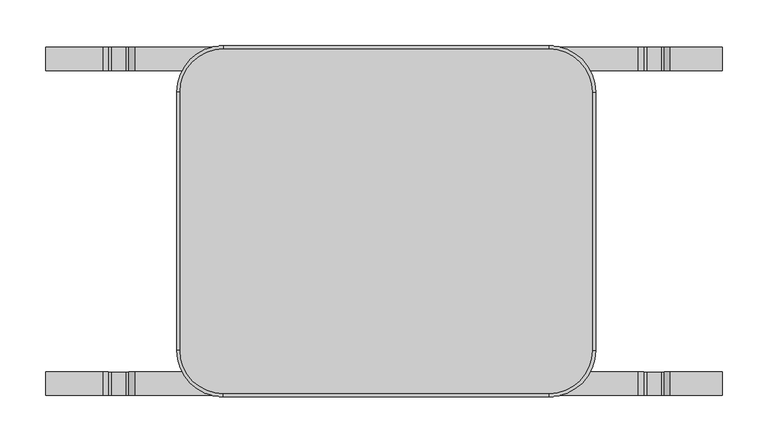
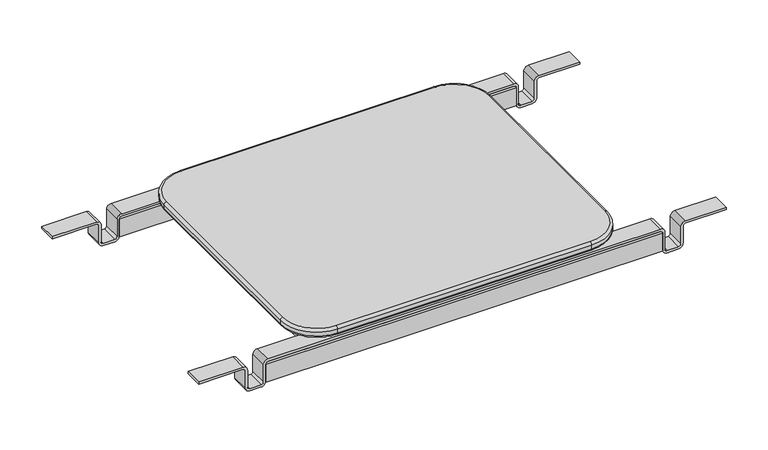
"""IFC4 building model written with IfcOpenShell, lengths in millimetres: furniture geometry, Stance_HC-Spry-Linking_Bracket : SPLT18."""

from ifc_helpers import new_model, si_unit, point, frame, frame_2d, origin, place, context, project, spatial, polyline, circle_curve, ellipse_curve, trimmed, segment, composite_curve, outline, extrude, source, transform, mapped, element, save
from ifc_brep_helpers import plane_surface, cylinder_surface, revolved_surface, advanced_brep


def furniture_fa3b0a36(model_context):
    return source(origin(), model_context, "Body", "SolidModel", [
        extrude(outline(polyline([(28.0190545, -164.7825), (2.6190545, -164.7825), (2.6190545, 164.7825), (28.0190545, 164.7825), (28.0190545, -164.7825)])), frame((0.0, 0.0, 353.1938169), z_axis=(0.0, 0.0, 1.0), x_axis=(1.0, 0.0, 0.0)), (0.0, 0.0, 1.0), 25.4),
        extrude(outline(polyline([(414.5429788, -164.7825), (389.1429788, -164.7825), (389.1429788, 164.7825), (414.5429788, 164.7825), (414.5429788, -164.7825)])), frame((0.0, 0.0, 353.1938169), z_axis=(0.0, 0.0, 1.0), x_axis=(1.0, 0.0, 0.0)), (0.0, 0.0, 1.0), 25.4),
        advanced_brep(
        [(437.1810167, 140.9523441, 386.8898412), (386.3810167, 191.7523441, 386.8898412), (386.3810167, 188.5773441, 390.0648412), (434.0060167, 140.9523441, 390.0648412), (437.1810167, 140.9523441, 381.2510412), (386.3810167, 191.7523441, 381.2510412), (434.0060167, 140.9523441, 378.0760412), (386.3810167, 188.5773441, 378.0760412), (434.0060167, -140.9523441, 390.0648412), (437.1810167, -140.9523441, 386.8898412), (437.1810167, -140.9523441, 381.2510412), (434.0060167, -140.9523441, 378.0760412), (386.3810167, -188.5773441, 390.0648412), (386.3810167, -191.7523441, 386.8898412), (386.3810167, -191.7523441, 381.2510412), (386.3810167, -188.5773441, 378.0760412), (30.7810167, -188.5773441, 390.0648412), (30.7810167, -191.7523441, 386.8898412), (30.7810167, -191.7523441, 381.2510412), (30.7810167, -188.5773441, 378.0760412), (-16.8439833, -140.9523441, 390.0648412), (-20.0189833, -140.9523441, 386.8898412), (-20.0189833, -140.9523441, 381.2510412), (-16.8439833, -140.9523441, 378.0760412), (-16.8439833, 140.9523441, 390.0648412), (-20.0189833, 140.9523441, 386.8898412), (-20.0189833, 140.9523441, 381.2510412), (-16.8439833, 140.9523441, 378.0760412), (30.7810167, 188.5773441, 390.0648412), (30.7810167, 191.7523441, 386.8898412), (30.7810167, 191.7523441, 381.2510412), (30.7810167, 188.5773441, 378.0760412)],
        [
            (0, 1, circle_curve(frame((386.3810167, 140.9523441, 386.8898412), z_axis=(0.0, 0.0, 1.0), x_axis=(0.0, 1.0, 0.0)), 50.8)),
            (1, 2, circle_curve(frame((386.3810167, 188.5773441, 386.8898412), z_axis=(1.0, 0.0, 0.0), x_axis=(0.0, 1.0, 0.0)), 3.175)),
            (2, 3, circle_curve(frame((386.3810167, 140.9523441, 390.0648412), z_axis=(0.0, 0.0, -1.0), x_axis=(0.0, 1.0, 0.0)), 47.625)),
            (3, 0, circle_curve(frame((434.0060167, 140.9523441, 386.8898412), z_axis=(0.0, 1.0, 0.0), x_axis=(1.0, 0.0, 0.0)), 3.175)),
            (0, 4),
            (4, 5, circle_curve(frame((386.3810167, 140.9523441, 381.2510412), z_axis=(0.0, 0.0, 1.0), x_axis=(0.0, 1.0, 0.0)), 50.8)),
            (5, 1),
            (4, 6, circle_curve(frame((434.0060167, 140.9523441, 381.2510412), z_axis=(0.0, 1.0, 0.0), x_axis=(1.0, 0.0, 0.0)), 3.175)),
            (6, 7, circle_curve(frame((386.3810167, 140.9523441, 378.0760412), z_axis=(0.0, 0.0, 1.0), x_axis=(0.0, 1.0, 0.0)), 47.625)),
            (7, 5, circle_curve(frame((386.3810167, 188.5773441, 381.2510412), z_axis=(1.0, 0.0, 0.0), x_axis=(0.0, 1.0, 0.0)), 3.175)),
            (3, 8),
            (8, 9, circle_curve(frame((434.0060167, -140.9523441, 386.8898412), z_axis=(0.0, 1.0, 0.0), x_axis=(1.0, 0.0, 0.0)), 3.175)),
            (9, 0),
            (9, 10),
            (10, 4),
            (10, 11, circle_curve(frame((434.0060167, -140.9523441, 381.2510412), z_axis=(0.0, 1.0, 0.0), x_axis=(1.0, 0.0, 0.0)), 3.175)),
            (11, 6),
            (8, 12, circle_curve(frame((386.3810167, -140.9523441, 390.0648412), z_axis=(0.0, 0.0, -1.0), x_axis=(1.0, 0.0, 0.0)), 47.625)),
            (12, 13, circle_curve(frame((386.3810167, -188.5773441, 386.8898412), z_axis=(1.0, 0.0, 0.0), x_axis=(0.0, -1.0, 0.0)), 3.175)),
            (13, 9, circle_curve(frame((386.3810167, -140.9523441, 386.8898412), z_axis=(0.0, 0.0, 1.0), x_axis=(1.0, 0.0, 0.0)), 50.8)),
            (13, 14),
            (14, 10, circle_curve(frame((386.3810167, -140.9523441, 381.2510412), z_axis=(0.0, 0.0, 1.0), x_axis=(1.0, 0.0, 0.0)), 50.8)),
            (14, 15, circle_curve(frame((386.3810167, -188.5773441, 381.2510412), z_axis=(1.0, 0.0, 0.0), x_axis=(0.0, -1.0, 0.0)), 3.175)),
            (15, 11, circle_curve(frame((386.3810167, -140.9523441, 378.0760412), z_axis=(0.0, 0.0, 1.0), x_axis=(1.0, 0.0, 0.0)), 47.625)),
            (12, 16),
            (16, 17, circle_curve(frame((30.7810167, -188.5773441, 386.8898412), z_axis=(1.0, 0.0, 0.0), x_axis=(0.0, -1.0, 0.0)), 3.175)),
            (17, 13),
            (17, 18),
            (18, 14),
            (18, 19, circle_curve(frame((30.7810167, -188.5773441, 381.2510412), z_axis=(1.0, 0.0, 0.0), x_axis=(0.0, -1.0, 0.0)), 3.175)),
            (19, 15),
            (16, 20, circle_curve(frame((30.7810167, -140.9523441, 390.0648412), z_axis=(0.0, 0.0, -1.0), x_axis=(0.0, -1.0, 0.0)), 47.625)),
            (20, 21, circle_curve(frame((-16.8439833, -140.9523441, 386.8898412), z_axis=(0.0, -1.0, 0.0), x_axis=(-1.0, 0.0, 0.0)), 3.175)),
            (21, 17, circle_curve(frame((30.7810167, -140.9523441, 386.8898412), z_axis=(0.0, 0.0, 1.0), x_axis=(0.0, -1.0, 0.0)), 50.8)),
            (21, 22),
            (22, 18, circle_curve(frame((30.7810167, -140.9523441, 381.2510412), z_axis=(0.0, 0.0, 1.0), x_axis=(0.0, -1.0, 0.0)), 50.8)),
            (22, 23, circle_curve(frame((-16.8439833, -140.9523441, 381.2510412), z_axis=(0.0, -1.0, 0.0), x_axis=(-1.0, 0.0, 0.0)), 3.175)),
            (23, 19, circle_curve(frame((30.7810167, -140.9523441, 378.0760412), z_axis=(0.0, 0.0, 1.0), x_axis=(0.0, -1.0, 0.0)), 47.625)),
            (20, 24),
            (24, 25, circle_curve(frame((-16.8439833, 140.9523441, 386.8898412), z_axis=(0.0, -1.0, 0.0), x_axis=(-1.0, 0.0, 0.0)), 3.175)),
            (25, 21),
            (25, 26),
            (26, 22),
            (26, 27, circle_curve(frame((-16.8439833, 140.9523441, 381.2510412), z_axis=(0.0, -1.0, 0.0), x_axis=(-1.0, 0.0, 0.0)), 3.175)),
            (27, 23),
            (24, 28, circle_curve(frame((30.7810167, 140.9523441, 390.0648412), z_axis=(0.0, 0.0, -1.0), x_axis=(-1.0, 0.0, 0.0)), 47.625)),
            (28, 29, circle_curve(frame((30.7810167, 188.5773441, 386.8898412), z_axis=(-1.0, 0.0, 0.0), x_axis=(0.0, 1.0, 0.0)), 3.175)),
            (29, 25, circle_curve(frame((30.7810167, 140.9523441, 386.8898412), z_axis=(0.0, 0.0, 1.0), x_axis=(-1.0, 0.0, 0.0)), 50.8)),
            (29, 30),
            (30, 26, circle_curve(frame((30.7810167, 140.9523441, 381.2510412), z_axis=(0.0, 0.0, 1.0), x_axis=(-1.0, 0.0, 0.0)), 50.8)),
            (30, 31, circle_curve(frame((30.7810167, 188.5773441, 381.2510412), z_axis=(-1.0, 0.0, 0.0), x_axis=(0.0, 1.0, 0.0)), 3.175)),
            (31, 27, circle_curve(frame((30.7810167, 140.9523441, 378.0760412), z_axis=(0.0, 0.0, 1.0), x_axis=(-1.0, 0.0, 0.0)), 47.625)),
            (1, 29),
            (28, 2),
            (5, 30),
            (7, 31),
        ],
        [
            revolved_surface(trimmed(ellipse_curve(frame((386.3810167, 188.5773441, 386.8898412), z_axis=(-1.0, 0.0, 0.0), x_axis=(0.0, 1.0, 0.0)), 3.175, 3.175), [point((386.3810167, 188.5773441, 390.0648412))], [point((386.3810167, 191.7523441, 386.8898412))], True, "CARTESIAN"), (386.3810167, 140.9523441, 0.0), (0.0, 0.0, -1.0)),
            cylinder_surface(frame((386.3810167, 140.9523441, 0.0), z_axis=(0.0, 0.0, -1.0), x_axis=(0.0, 1.0, 0.0)), 50.8),
            revolved_surface(trimmed(ellipse_curve(frame((386.3810167, 188.5773441, 381.2510412), z_axis=(-1.0, 0.0, 0.0), x_axis=(0.0, 1.0, 0.0)), 3.175, 3.175), [point((386.3810167, 191.7523441, 381.2510412))], [point((386.3810167, 188.5773441, 378.0760412))], True, "CARTESIAN"), (386.3810167, 140.9523441, 0.0), (0.0, 0.0, -1.0)),
            cylinder_surface(frame((434.0060167, 140.9523441, 386.8898412), z_axis=(0.0, 1.0, 0.0), x_axis=(1.0, 0.0, 0.0)), 3.175),
            plane_surface(frame((437.1810167, 140.9523441, 386.8898412), z_axis=(1.0, 0.0, 0.0), x_axis=(0.0, -1.0, 0.0))),
            cylinder_surface(frame((434.0060167, 140.9523441, 381.2510412), z_axis=(0.0, 1.0, 0.0), x_axis=(1.0, 0.0, 0.0)), 3.175),
            revolved_surface(trimmed(ellipse_curve(frame((434.0060167, -140.9523441, 386.8898412), z_axis=(0.0, 1.0, 0.0), x_axis=(1.0, 0.0, 0.0)), 3.175, 3.175), [point((434.0060167, -140.9523441, 390.0648412))], [point((437.1810167, -140.9523441, 386.8898412))], True, "CARTESIAN"), (386.3810167, -140.9523441, 0.0), (0.0, 0.0, -1.0)),
            cylinder_surface(frame((386.3810167, -140.9523441, 0.0), z_axis=(0.0, 0.0, -1.0), x_axis=(1.0, 0.0, 0.0)), 50.8),
            revolved_surface(trimmed(ellipse_curve(frame((434.0060167, -140.9523441, 381.2510412), z_axis=(0.0, 1.0, 0.0), x_axis=(1.0, 0.0, 0.0)), 3.175, 3.175), [point((437.1810167, -140.9523441, 381.2510412))], [point((434.0060167, -140.9523441, 378.0760412))], True, "CARTESIAN"), (386.3810167, -140.9523441, 0.0), (0.0, 0.0, -1.0)),
            cylinder_surface(frame((386.3810167, -188.5773441, 386.8898412), z_axis=(1.0, 0.0, 0.0), x_axis=(0.0, -1.0, 0.0)), 3.175),
            plane_surface(frame((386.3810167, -191.7523441, 386.8898412), z_axis=(0.0, -1.0, 0.0), x_axis=(-1.0, 0.0, 0.0))),
            cylinder_surface(frame((386.3810167, -188.5773441, 381.2510412), z_axis=(1.0, 0.0, 0.0), x_axis=(0.0, -1.0, 0.0)), 3.175),
            revolved_surface(trimmed(ellipse_curve(frame((30.7810167, -188.5773441, 386.8898412), z_axis=(1.0, 0.0, 0.0), x_axis=(0.0, -1.0, 0.0)), 3.175, 3.175), [point((30.7810167, -188.5773441, 390.0648412))], [point((30.7810167, -191.7523441, 386.8898412))], True, "CARTESIAN"), (30.7810167, -140.9523441, 0.0), (0.0, 0.0, -1.0)),
            cylinder_surface(frame((30.7810167, -140.9523441, 0.0), z_axis=(0.0, 0.0, -1.0), x_axis=(0.0, -1.0, 0.0)), 50.8),
            revolved_surface(trimmed(ellipse_curve(frame((30.7810167, -188.5773441, 381.2510412), z_axis=(1.0, 0.0, 0.0), x_axis=(0.0, -1.0, 0.0)), 3.175, 3.175), [point((30.7810167, -191.7523441, 381.2510412))], [point((30.7810167, -188.5773441, 378.0760412))], True, "CARTESIAN"), (30.7810167, -140.9523441, 0.0), (0.0, 0.0, -1.0)),
            cylinder_surface(frame((-16.8439833, -140.9523441, 386.8898412), z_axis=(0.0, -1.0, 0.0), x_axis=(-1.0, 0.0, 0.0)), 3.175),
            plane_surface(frame((-20.0189833, -140.9523441, 386.8898412), z_axis=(-1.0, 0.0, 0.0), x_axis=(0.0, 1.0, 0.0))),
            cylinder_surface(frame((-16.8439833, -140.9523441, 381.2510412), z_axis=(0.0, -1.0, 0.0), x_axis=(-1.0, 0.0, 0.0)), 3.175),
            revolved_surface(trimmed(ellipse_curve(frame((-16.8439833, 140.9523441, 386.8898412), z_axis=(0.0, -1.0, 0.0), x_axis=(-1.0, 0.0, 0.0)), 3.175, 3.175), [point((-16.8439833, 140.9523441, 390.0648412))], [point((-20.0189833, 140.9523441, 386.8898412))], True, "CARTESIAN"), (30.7810167, 140.9523441, 0.0), (0.0, 0.0, -1.0)),
            cylinder_surface(frame((30.7810167, 140.9523441, 0.0), z_axis=(0.0, 0.0, -1.0), x_axis=(-1.0, 0.0, 0.0)), 50.8),
            revolved_surface(trimmed(ellipse_curve(frame((-16.8439833, 140.9523441, 381.2510412), z_axis=(0.0, -1.0, 0.0), x_axis=(-1.0, 0.0, 0.0)), 3.175, 3.175), [point((-20.0189833, 140.9523441, 381.2510412))], [point((-16.8439833, 140.9523441, 378.0760412))], True, "CARTESIAN"), (30.7810167, 140.9523441, 0.0), (0.0, 0.0, -1.0)),
            cylinder_surface(frame((30.7810167, 188.5773441, 386.8898412), z_axis=(-1.0, 0.0, 0.0), x_axis=(0.0, 1.0, 0.0)), 3.175),
            plane_surface(frame((30.7810167, 191.7523441, 386.8898412), z_axis=(0.0, 1.0, 0.0), x_axis=(1.0, 0.0, 0.0))),
            cylinder_surface(frame((30.7810167, 188.5773441, 381.2510412), z_axis=(-1.0, 0.0, 0.0), x_axis=(0.0, 1.0, 0.0)), 3.175),
            plane_surface(frame((-16.8439833, -140.9523441, 390.0648412), z_axis=(0.0, 0.0, 1.0), x_axis=(0.0, -1.0, 0.0))),
            plane_surface(frame((-16.8439833, -140.9523441, 378.0760412), z_axis=(0.0, 0.0, -1.0), x_axis=(0.0, 1.0, 0.0))),
        ],
        [
            (0, [[1, 2, 3, 4]]),
            (1, [[-1, 5, 6, 7]]),
            (2, [[-6, 8, 9, 10]]),
            (3, [[-4, 11, 12, 13]]),
            (4, [[-5, -13, 14, 15]]),
            (5, [[-8, -15, 16, 17]]),
            (6, [[-12, 18, 19, 20]]),
            (7, [[-14, -20, 21, 22]]),
            (8, [[-16, -22, 23, 24]]),
            (9, [[-19, 25, 26, 27]]),
            (10, [[-21, -27, 28, 29]]),
            (11, [[-23, -29, 30, 31]]),
            (12, [[-26, 32, 33, 34]]),
            (13, [[-28, -34, 35, 36]]),
            (14, [[-30, -36, 37, 38]]),
            (15, [[-33, 39, 40, 41]]),
            (16, [[-35, -41, 42, 43]]),
            (17, [[-37, -43, 44, 45]]),
            (18, [[-40, 46, 47, 48]]),
            (19, [[-42, -48, 49, 50]]),
            (20, [[-44, -50, 51, 52]]),
            (21, [[-2, 53, -47, 54]]),
            (22, [[-7, 55, -49, -53]]),
            (23, [[-10, 56, -51, -55]]),
            (24, [[-3, -54, -46, -39, -32, -25, -18, -11]]),
            (25, [[-9, -17, -24, -31, -38, -45, -52, -56]]),
        ],
    ),
        extrude(outline(polyline([(-69.2314833, 187.0075), (-69.2314833, 190.1825), (486.3935167, 190.1825), (486.3935167, 187.0075), (-69.2314833, 187.0075)])), frame((0.0, 0.0, 341.9015102), z_axis=(0.0, 0.0, 1.0), x_axis=(1.0, 0.0, 0.0)), (0.0, 0.0, 1.0), 26.9875),
        extrude(outline(polyline([(-69.2314833, 164.7825), (-69.2314833, 167.9575), (486.3935167, 167.9575), (486.3935167, 164.7825), (-69.2314833, 164.7825)])), frame((0.0, 0.0, 341.9015102), z_axis=(0.0, 0.0, 1.0), x_axis=(1.0, 0.0, 0.0)), (0.0, 0.0, 1.0), 26.9875),
        extrude(outline(polyline([(-69.2314833, -190.1825), (-69.2314833, -187.0075), (486.3935167, -187.0075), (486.3935167, -190.1825), (-69.2314833, -190.1825)])), frame((0.0, 0.0, 341.9015102), z_axis=(0.0, 0.0, 1.0), x_axis=(1.0, 0.0, 0.0)), (0.0, 0.0, 1.0), 26.9875),
        extrude(outline(polyline([(-69.2314833, -167.9575), (-69.2314833, -164.7825), (486.3935167, -164.7825), (486.3935167, -167.9575), (-69.2314833, -167.9575)])), frame((0.0, 0.0, 341.9015102), z_axis=(0.0, 0.0, 1.0), x_axis=(1.0, 0.0, 0.0)), (0.0, 0.0, 1.0), 26.9875),
        extrude(outline(composite_curve([segment(polyline([(375.2390102, -162.8939833), (372.0640102, -162.8939833), (372.0640102, -100.9814833)]), True, "CONTINUOUS"), segment(trimmed(circle_curve(frame_2d((368.8890102, -100.9814833)), 3.175), [point((372.0640102, -100.9814833))], [point((368.8890102, -97.8064833))], True, "CARTESIAN"), True, "CONTINUOUS"), segment(polyline([(368.8890102, -97.8064833), (343.4890102, -97.8064833)]), True, "CONTINUOUS"), segment(trimmed(circle_curve(frame_2d((343.4890102, -91.4564833)), 6.35), [point((343.4890102, -97.8064833))], [point((337.1390102, -91.4564833))], False, "CARTESIAN"), True, "CONTINUOUS"), segment(polyline([(337.1390102, -91.4564833), (337.1390102, -75.5814833)]), True, "CONTINUOUS"), segment(trimmed(circle_curve(frame_2d((343.4890102, -75.5814833)), 6.35), [point((337.1390102, -75.5814833))], [point((343.4890102, -69.2314833))], False, "CARTESIAN"), True, "CONTINUOUS"), segment(polyline([(343.4890102, -69.2314833), (368.8890102, -69.2314833)]), True, "CONTINUOUS"), segment(trimmed(circle_curve(frame_2d((368.8890102, -66.0564833)), 3.175), [point((368.8890102, -69.2314833))], [point((372.0640102, -66.0564833))], True, "CARTESIAN"), True, "CONTINUOUS"), segment(polyline([(372.0640102, -66.0564833), (372.0640102, 483.2185167)]), True, "CONTINUOUS"), segment(trimmed(circle_curve(frame_2d((368.8890102, 483.2185167)), 3.175), [point((372.0640102, 483.2185167))], [point((368.8890102, 486.3935167))], True, "CARTESIAN"), True, "CONTINUOUS"), segment(polyline([(368.8890102, 486.3935167), (343.4890102, 486.3935167)]), True, "CONTINUOUS"), segment(trimmed(circle_curve(frame_2d((343.4890102, 492.7435167)), 6.35), [point((343.4890102, 486.3935167))], [point((337.1390102, 492.7435167))], False, "CARTESIAN"), True, "CONTINUOUS"), segment(polyline([(337.1390102, 492.7435167), (337.1390102, 508.6185167)]), True, "CONTINUOUS"), segment(trimmed(circle_curve(frame_2d((343.4890102, 508.6185167)), 6.35), [point((337.1390102, 508.6185167))], [point((343.4890102, 514.9685167))], False, "CARTESIAN"), True, "CONTINUOUS"), segment(polyline([(343.4890102, 514.9685167), (368.8890102, 514.9685167)]), True, "CONTINUOUS"), segment(trimmed(circle_curve(frame_2d((368.8890102, 518.1435167)), 3.175), [point((368.8890102, 514.9685167))], [point((372.0640102, 518.1435167))], True, "CARTESIAN"), True, "CONTINUOUS"), segment(polyline([(372.0640102, 518.1435167), (372.0640102, 575.2935167), (375.2390102, 575.2935167), (375.2390102, 518.1435167)]), True, "CONTINUOUS"), segment(trimmed(circle_curve(frame_2d((368.8890102, 518.1435167)), 6.35), [point((375.2390102, 518.1435167))], [point((368.8890102, 511.7935167))], False, "CARTESIAN"), True, "CONTINUOUS"), segment(polyline([(368.8890102, 511.7935167), (343.4890102, 511.7935167)]), True, "CONTINUOUS"), segment(trimmed(circle_curve(frame_2d((343.4890102, 508.6185167)), 3.175), [point((343.4890102, 511.7935167))], [point((340.3140102, 508.6185167))], True, "CARTESIAN"), True, "CONTINUOUS"), segment(polyline([(340.3140102, 508.6185167), (340.3140102, 492.7435167)]), True, "CONTINUOUS"), segment(trimmed(circle_curve(frame_2d((343.4890102, 492.7435167)), 3.175), [point((340.3140102, 492.7435167))], [point((343.4890102, 489.5685167))], True, "CARTESIAN"), True, "CONTINUOUS"), segment(polyline([(343.4890102, 489.5685167), (368.8890102, 489.5685167)]), True, "CONTINUOUS"), segment(trimmed(circle_curve(frame_2d((368.8890102, 483.2185167)), 6.35), [point((368.8890102, 489.5685167))], [point((375.2390102, 483.2185167))], False, "CARTESIAN"), True, "CONTINUOUS"), segment(polyline([(375.2390102, 483.2185167), (375.2390102, -66.0564833)]), True, "CONTINUOUS"), segment(trimmed(circle_curve(frame_2d((368.8890102, -66.0564833)), 6.35), [point((375.2390102, -66.0564833))], [point((368.8890102, -72.4064833))], False, "CARTESIAN"), True, "CONTINUOUS"), segment(polyline([(368.8890102, -72.4064833), (343.4890102, -72.4064833)]), True, "CONTINUOUS"), segment(trimmed(circle_curve(frame_2d((343.4890102, -75.5814833)), 3.175), [point((343.4890102, -72.4064833))], [point((340.3140102, -75.5814833))], True, "CARTESIAN"), True, "CONTINUOUS"), segment(polyline([(340.3140102, -75.5814833), (340.3140102, -91.4564833)]), True, "CONTINUOUS"), segment(trimmed(circle_curve(frame_2d((343.4890102, -91.4564833)), 3.175), [point((340.3140102, -91.4564833))], [point((343.4890102, -94.6314833))], True, "CARTESIAN"), True, "CONTINUOUS"), segment(polyline([(343.4890102, -94.6314833), (368.8890102, -94.6314833)]), True, "CONTINUOUS"), segment(trimmed(circle_curve(frame_2d((368.8890102, -100.9814833)), 6.35), [point((368.8890102, -94.6314833))], [point((375.2390102, -100.9814833))], False, "CARTESIAN"), True, "CONTINUOUS"), segment(polyline([(375.2390102, -100.9814833), (375.2390102, -162.8939833)]), True, "CONTINUOUS")], self_intersect=False)), frame((0.0, 164.7825, 0.0), z_axis=(0.0, 1.0, 0.0), x_axis=(0.0, 0.0, 1.0)), (0.0, 0.0, 1.0), 25.4),
        extrude(outline(composite_curve([segment(polyline([(375.2390102, -162.8939833), (372.0640102, -162.8939833), (372.0640102, -100.9814833)]), True, "CONTINUOUS"), segment(trimmed(circle_curve(frame_2d((368.8890102, -100.9814833)), 3.175), [point((372.0640102, -100.9814833))], [point((368.8890102, -97.8064833))], True, "CARTESIAN"), True, "CONTINUOUS"), segment(polyline([(368.8890102, -97.8064833), (343.4890102, -97.8064833)]), True, "CONTINUOUS"), segment(trimmed(circle_curve(frame_2d((343.4890102, -91.4564833)), 6.35), [point((343.4890102, -97.8064833))], [point((337.1390102, -91.4564833))], False, "CARTESIAN"), True, "CONTINUOUS"), segment(polyline([(337.1390102, -91.4564833), (337.1390102, -75.5814833)]), True, "CONTINUOUS"), segment(trimmed(circle_curve(frame_2d((343.4890102, -75.5814833)), 6.35), [point((337.1390102, -75.5814833))], [point((343.4890102, -69.2314833))], False, "CARTESIAN"), True, "CONTINUOUS"), segment(polyline([(343.4890102, -69.2314833), (368.8890102, -69.2314833)]), True, "CONTINUOUS"), segment(trimmed(circle_curve(frame_2d((368.8890102, -66.0564833)), 3.175), [point((368.8890102, -69.2314833))], [point((372.0640102, -66.0564833))], True, "CARTESIAN"), True, "CONTINUOUS"), segment(polyline([(372.0640102, -66.0564833), (372.0640102, 483.2185167)]), True, "CONTINUOUS"), segment(trimmed(circle_curve(frame_2d((368.8890102, 483.2185167)), 3.175), [point((372.0640102, 483.2185167))], [point((368.8890102, 486.3935167))], True, "CARTESIAN"), True, "CONTINUOUS"), segment(polyline([(368.8890102, 486.3935167), (343.4890102, 486.3935167)]), True, "CONTINUOUS"), segment(trimmed(circle_curve(frame_2d((343.4890102, 492.7435167)), 6.35), [point((343.4890102, 486.3935167))], [point((337.1390102, 492.7435167))], False, "CARTESIAN"), True, "CONTINUOUS"), segment(polyline([(337.1390102, 492.7435167), (337.1390102, 508.6185167)]), True, "CONTINUOUS"), segment(trimmed(circle_curve(frame_2d((343.4890102, 508.6185167)), 6.35), [point((337.1390102, 508.6185167))], [point((343.4890102, 514.9685167))], False, "CARTESIAN"), True, "CONTINUOUS"), segment(polyline([(343.4890102, 514.9685167), (368.8890102, 514.9685167)]), True, "CONTINUOUS"), segment(trimmed(circle_curve(frame_2d((368.8890102, 518.1435167)), 3.175), [point((368.8890102, 514.9685167))], [point((372.0640102, 518.1435167))], True, "CARTESIAN"), True, "CONTINUOUS"), segment(polyline([(372.0640102, 518.1435167), (372.0640102, 575.2935167), (375.2390102, 575.2935167), (375.2390102, 518.1435167)]), True, "CONTINUOUS"), segment(trimmed(circle_curve(frame_2d((368.8890102, 518.1435167)), 6.35), [point((375.2390102, 518.1435167))], [point((368.8890102, 511.7935167))], False, "CARTESIAN"), True, "CONTINUOUS"), segment(polyline([(368.8890102, 511.7935167), (343.4890102, 511.7935167)]), True, "CONTINUOUS"), segment(trimmed(circle_curve(frame_2d((343.4890102, 508.6185167)), 3.175), [point((343.4890102, 511.7935167))], [point((340.3140102, 508.6185167))], True, "CARTESIAN"), True, "CONTINUOUS"), segment(polyline([(340.3140102, 508.6185167), (340.3140102, 492.7435167)]), True, "CONTINUOUS"), segment(trimmed(circle_curve(frame_2d((343.4890102, 492.7435167)), 3.175), [point((340.3140102, 492.7435167))], [point((343.4890102, 489.5685167))], True, "CARTESIAN"), True, "CONTINUOUS"), segment(polyline([(343.4890102, 489.5685167), (368.8890102, 489.5685167)]), True, "CONTINUOUS"), segment(trimmed(circle_curve(frame_2d((368.8890102, 483.2185167)), 6.35), [point((368.8890102, 489.5685167))], [point((375.2390102, 483.2185167))], False, "CARTESIAN"), True, "CONTINUOUS"), segment(polyline([(375.2390102, 483.2185167), (375.2390102, -66.0564833)]), True, "CONTINUOUS"), segment(trimmed(circle_curve(frame_2d((368.8890102, -66.0564833)), 6.35), [point((375.2390102, -66.0564833))], [point((368.8890102, -72.4064833))], False, "CARTESIAN"), True, "CONTINUOUS"), segment(polyline([(368.8890102, -72.4064833), (343.4890102, -72.4064833)]), True, "CONTINUOUS"), segment(trimmed(circle_curve(frame_2d((343.4890102, -75.5814833)), 3.175), [point((343.4890102, -72.4064833))], [point((340.3140102, -75.5814833))], True, "CARTESIAN"), True, "CONTINUOUS"), segment(polyline([(340.3140102, -75.5814833), (340.3140102, -91.4564833)]), True, "CONTINUOUS"), segment(trimmed(circle_curve(frame_2d((343.4890102, -91.4564833)), 3.175), [point((340.3140102, -91.4564833))], [point((343.4890102, -94.6314833))], True, "CARTESIAN"), True, "CONTINUOUS"), segment(polyline([(343.4890102, -94.6314833), (368.8890102, -94.6314833)]), True, "CONTINUOUS"), segment(trimmed(circle_curve(frame_2d((368.8890102, -100.9814833)), 6.35), [point((368.8890102, -94.6314833))], [point((375.2390102, -100.9814833))], False, "CARTESIAN"), True, "CONTINUOUS"), segment(polyline([(375.2390102, -100.9814833), (375.2390102, -162.8939833)]), True, "CONTINUOUS")], self_intersect=False)), frame((0.0, -190.1825, 0.0), z_axis=(0.0, 1.0, 0.0), x_axis=(0.0, 0.0, 1.0)), (0.0, 0.0, 1.0), 25.4),
    ])


if __name__ == "__main__":
    model = new_model("IFC4")
    model_context = context("Model", 3, world=origin())
    ifc_project = project(units=[si_unit("LENGTHUNIT", "METRE", prefix="MILLI")], contexts=[model_context])
    site = spatial("IfcSite", under=ifc_project)
    building = spatial("IfcBuilding", under=site)
    placement = place(None, origin())
    furniture_shape = furniture_fa3b0a36(model_context)
    element("IfcFurniture", 1, ObjectType="Stance_HC-Spry-Linking_Bracket : SPLT18", at=placement, inside=building, context=model_context, shape_type="MappedRepresentation", body=[
        mapped(furniture_shape, transform((0.0, 0.0, 0.0), x_axis=(1.0, 0.0, 0.0), y_axis=(0.0, 1.0, 0.0), z_axis=(0.0, 0.0, 1.0))),
    ])
    save(model, "model.ifc")
